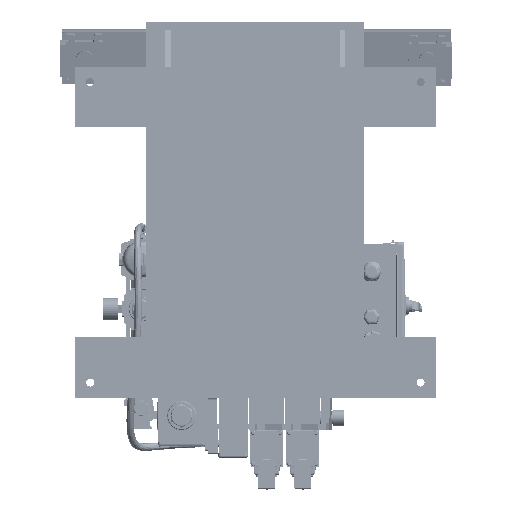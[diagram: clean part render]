
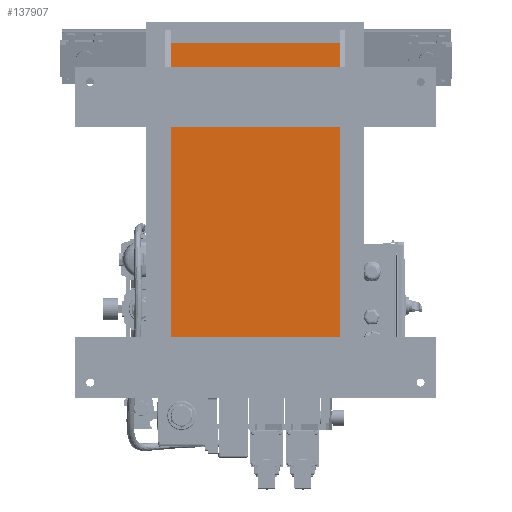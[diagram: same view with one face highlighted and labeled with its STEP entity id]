
A CAD part, front view. The second image highlights one B-rep face of the part: STEP entity #137907.
In plain terms, the highlighted planar face has unit normal (0, -1, 0).
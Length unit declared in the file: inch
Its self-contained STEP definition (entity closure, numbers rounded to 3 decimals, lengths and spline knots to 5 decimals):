
#12808 = ORIENTED_EDGE ( 'NONE', *, *, #127586, .T. ) ;
#18374 = DIRECTION ( 'NONE',  ( 0., 0., 1. ) ) ;
#29893 = DIRECTION ( 'NONE',  ( 0., 0., -1. ) ) ;
#35316 = CARTESIAN_POINT ( 'NONE',  ( -5.08896, -18.31226, -11.86105 ) ) ;
#36550 = VERTEX_POINT ( 'NONE', #159995 ) ;
#49041 = CARTESIAN_POINT ( 'NONE',  ( -5.08896, -18.31226, -10.98105 ) ) ;
#53622 = ORIENTED_EDGE ( 'NONE', *, *, #338355, .T. ) ;
#60128 = VECTOR ( 'NONE', #267938, 39.37008 ) ;
#108464 = DIRECTION ( 'NONE',  ( 0., 1., 0. ) ) ;
#113717 = EDGE_CURVE ( 'NONE', #282622, #158174, #305726, .T. ) ;
#123581 = CARTESIAN_POINT ( 'NONE',  ( -5.08896, -18.31226, 11.25895 ) ) ;
#127586 = EDGE_CURVE ( 'NONE', #282622, #316706, #197926, .T. ) ;
#131494 = AXIS2_PLACEMENT_3D ( 'NONE', #263642, #108464, #357704 ) ;
#137907 = ADVANCED_FACE ( 'NONE', ( #303081 ), #232326, .F. ) ;
#148377 = ORIENTED_EDGE ( 'NONE', *, *, #325083, .T. ) ;
#158174 = VERTEX_POINT ( 'NONE', #347181 ) ;
#159995 = CARTESIAN_POINT ( 'NONE',  ( 6.16104, -18.31226, -10.98105 ) ) ;
#177378 = CARTESIAN_POINT ( 'NONE',  ( 6.16104, -18.31226, 12.13895 ) ) ;
#197926 = LINE ( 'NONE', #35316, #378148 ) ;
#198587 = VECTOR ( 'NONE', #341536, 39.37008 ) ;
#215770 = LINE ( 'NONE', #49041, #60128 ) ;
#232326 = PLANE ( 'NONE',  #131494 ) ;
#233803 = EDGE_LOOP ( 'NONE', ( #358209, #12808, #148377, #53622 ) ) ;
#263642 = CARTESIAN_POINT ( 'NONE',  ( 6.16104, -18.31226, -11.86105 ) ) ;
#264222 = CARTESIAN_POINT ( 'NONE',  ( -5.08896, -18.31226, -10.98105 ) ) ;
#267938 = DIRECTION ( 'NONE',  ( 1., 0., 0. ) ) ;
#279555 = VECTOR ( 'NONE', #18374, 39.37008 ) ;
#282622 = VERTEX_POINT ( 'NONE', #342759 ) ;
#299146 = LINE ( 'NONE', #177378, #279555 ) ;
#303081 = FACE_OUTER_BOUND ( 'NONE', #233803, .T. ) ;
#305726 = LINE ( 'NONE', #123581, #198587 ) ;
#316706 = VERTEX_POINT ( 'NONE', #264222 ) ;
#325083 = EDGE_CURVE ( 'NONE', #316706, #36550, #215770, .T. ) ;
#338355 = EDGE_CURVE ( 'NONE', #36550, #158174, #299146, .T. ) ;
#341536 = DIRECTION ( 'NONE',  ( 1., 0., 0. ) ) ;
#342759 = CARTESIAN_POINT ( 'NONE',  ( -5.08896, -18.31226, 11.25895 ) ) ;
#347181 = CARTESIAN_POINT ( 'NONE',  ( 6.16104, -18.31226, 11.25895 ) ) ;
#357704 = DIRECTION ( 'NONE',  ( 0., 0., 1. ) ) ;
#358209 = ORIENTED_EDGE ( 'NONE', *, *, #113717, .F. ) ;
#378148 = VECTOR ( 'NONE', #29893, 39.37008 ) ;
